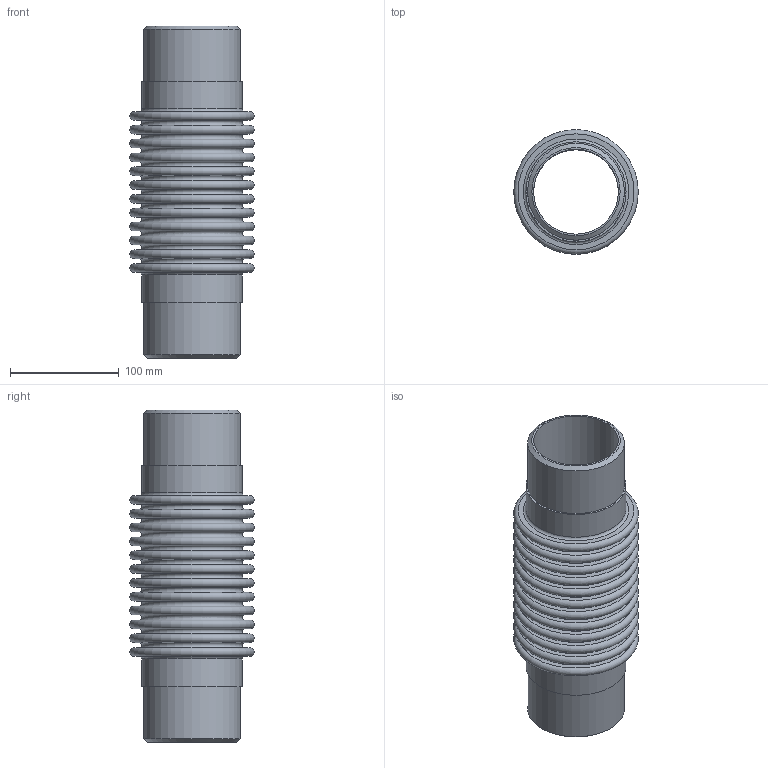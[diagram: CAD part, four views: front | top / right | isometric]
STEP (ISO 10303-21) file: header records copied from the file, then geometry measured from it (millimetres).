
FILE_DESCRIPTION(/* description */ ('EXPANSION JOINT,SINGLE, WELD ENDS,4 INCH NOMINAL'),/* implementation_level */ '2;1');
FILE_NAME(/* name */ 'ASSEMBLY US-3-12-300L.stp',/* time_stamp */ '2026-07-28T15:39:32-05:00',/* author */ ('jorgef'),/* organization */ (''),/* preprocessor_version */ 'ST-DEVELOPER v20.1',/* originating_system */ 'Autodesk Inventor 2026',/* authorisation */ '');
FILE_SCHEMA (('AUTOMOTIVE_DESIGN { 1 0 10303 214 3 1 1 }'));
Length unit declared in the file: inch
Products named in the file (3): ASSEMBLY  US-3-12-300L; STOCK BELLOW - US-3-12-300L; PIPE- US-3-12-300L
Assembly tree (3 placements, depth 2):
  ASSEMBLY  US-3-12-300L
    STOCK BELLOW - US-3-12-300L
    PIPE- US-3-12-300L  x2
Bounding box: 114.3 x 114.3 x 304.8 mm (x, y, z)
Volume: 410728.6 mm3; surface area: 342713.2 mm2
Topology: 5 solids, 5 shells, 118 faces, 180 edges, 121 vertices
Faces by surface type: plane 58, torus 50, cylinder 8, cone 2
Full cylindrical faces by diameter (mm): 77.927 x2, 88.9 x4, 91.948 x2
Entity records: 2769 total; most frequent: DIRECTION 573, CARTESIAN_POINT 405, ORIENTED_EDGE 342, AXIS2_PLACEMENT_3D 283, EDGE_CURVE 171, EDGE_LOOP 169, CIRCLE 164, VERTEX_POINT 114
